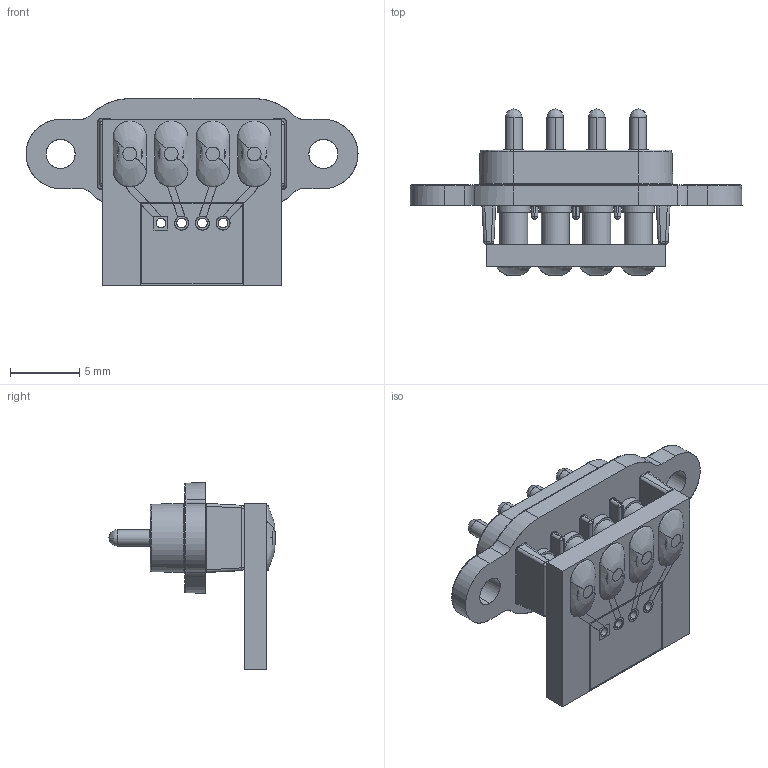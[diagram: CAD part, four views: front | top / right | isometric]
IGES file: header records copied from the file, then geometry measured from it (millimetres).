
Start section: SolidWorks IGES file using analytic representation for surfaces
Global section: file name: F:\OneDrive\Desktop\Coda\28.7\Swift-Dock add 3D\Swift-Dock add 3D\Swift-DOCK Ranges Completed\SD-Mini\SWIFT DOCK MINI-4P-SC.IGS; native system: SolidWorks 2021; preprocessor: SolidWorks 2021; author: Georg; date: 210728.142325; units: millimetre
Bounding box: 24 x 12 x 13.5 mm (x, y, z)
Surface area: 1522.8 mm2 (no closed solid volume)
Topology: 0 solids, 0 shells, 499 faces, 5126 edges, 5118 vertices
Faces by surface type: revolution 258, bspline 241
